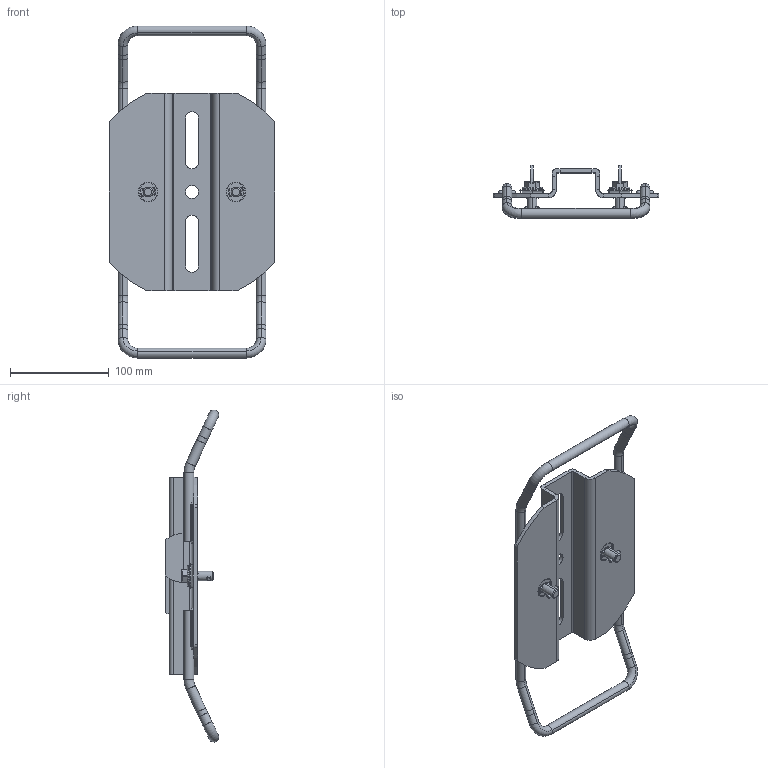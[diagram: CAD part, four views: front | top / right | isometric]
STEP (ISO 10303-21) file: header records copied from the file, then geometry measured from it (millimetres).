
FILE_DESCRIPTION((''),'2;1');
FILE_NAME('GLP-21155_ASM','2022-02-14T14:44:40',('Michael.Spatz'),(''),'CREO PARAMETRIC BY PTC INC, 2018500','CREO PARAMETRIC BY PTC INC, 2018500','');
FILE_SCHEMA(('AUTOMOTIVE_DESIGN { 1 0 10303 214 1 1 1 1 }'));
Length unit declared in the file: millimetre
Products named in the file (8): GLP-13847; GLP-13846; GLP-13845; GLP-11347; GLP-10014; GLP-10012; GLP-20356_ASM; GLP-21155_ASM
Assembly tree (18 placements, depth 3):
  GLP-21155_ASM
    GLP-13847
    GLP-13846  x2
    GLP-13845  x8
    GLP-20356_ASM  x2
      GLP-11347
      GLP-10014
      GLP-10012
Bounding box: 168 x 53.99 x 336.72 mm (x, y, z)
Volume: 233942.6 mm3; surface area: 125710.7 mm2
Topology: 21 solids, 22 shells, 725 faces, 2336 edges, 1290 vertices
Faces by surface type: sphere 364, cylinder 155, plane 130, bspline 28, torus 24, cone 24
Entity records: 14770 total; most frequent: CARTESIAN_POINT 3191, DIRECTION 1670, ORIENTED_EDGE 1190, AXIS2_PLACEMENT_3D 644, PRESENTATION_STYLE_ASSIGNMENT 614, STYLED_ITEM 614, EDGE_CURVE 597, CURVE_STYLE 533
